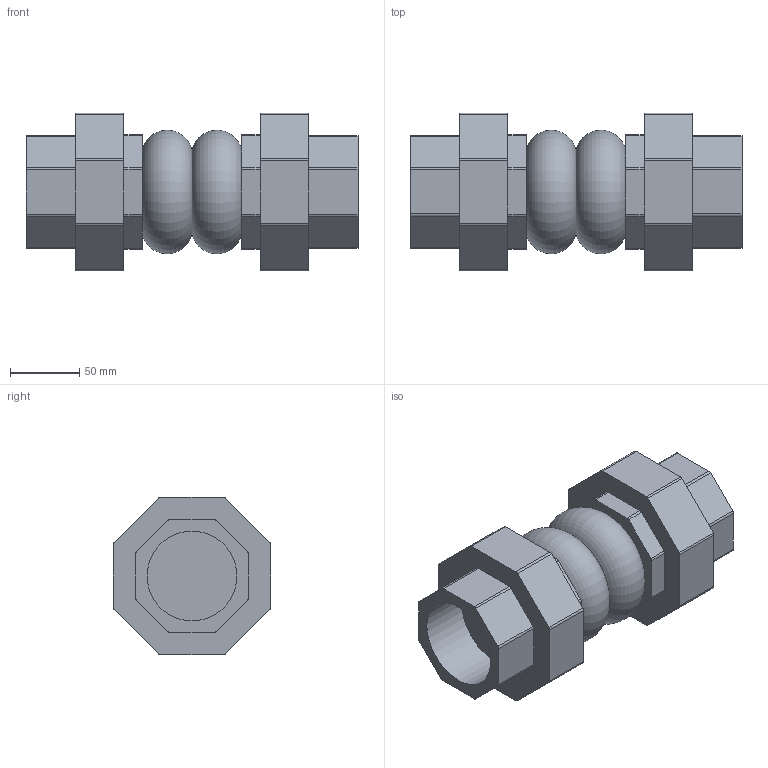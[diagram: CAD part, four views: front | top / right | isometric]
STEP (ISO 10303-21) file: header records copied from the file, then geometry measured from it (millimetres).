
FILE_DESCRIPTION(('STEP AP203'), '1');
FILE_NAME('3D_505-065-16', '', ('UNSPECIFIED'), ('UNSPECIFIED'), 'C3D Converter', 'C3D Toolkit', '');
FILE_SCHEMA(('CONFIG_CONTROL_DESIGN'));
Length unit declared in the file: millimetre
Bounding box: 240 x 114 x 114 mm (x, y, z)
Volume: 1439578.7 mm3; surface area: 129840 mm2
Topology: 1 solids, 1 shells, 110 faces, 302 edges, 202 vertices
Faces by surface type: plane 58, cylinder 50, torus 2
Full cylindrical faces by diameter (mm): 65 x2
Entity records: 4423 total; most frequent: DIRECTION 626, CARTESIAN_POINT 611, ORIENTED_EDGE 596, EDGE_CURVE 298, AXIS2_PLACEMENT_3D 217, VERTEX_POINT 202, LINE 192, VECTOR 192
